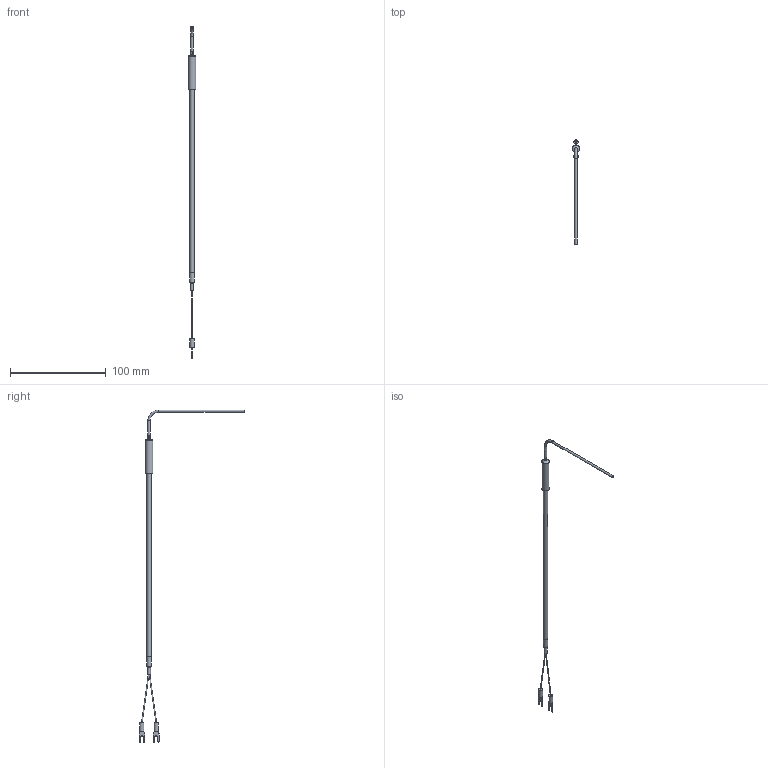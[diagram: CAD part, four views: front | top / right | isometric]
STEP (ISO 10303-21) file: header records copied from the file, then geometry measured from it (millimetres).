
FILE_DESCRIPTION (( 'STEP AP203' ), '1' );
FILE_NAME ('YIT111S-5(0).STEP', '2024-05-29T07:54:04', ( '' ), ( '' ), 'SwSTEP 2.0', 'SolidWorks 2021', '' );
FILE_SCHEMA (( 'CONFIG_CONTROL_DESIGN' ));
Length unit declared in the file: millimetre
Products named in the file (1): YIT111S-5(0)
Bounding box: 8 x 110.43 x 346.15 mm (x, y, z)
Volume: 6425.9 mm3; surface area: 5784.5 mm2
Topology: 1 solids, 1 shells, 70 faces, 168 edges, 109 vertices
Faces by surface type: plane 35, cylinder 22, bspline 8, cone 3, torus 2
Full cylindrical faces by diameter (mm): 2.3 x2, 3.16 x1, 4.5 x2, 4.8 x1, 5 x1, 8 x1
Entity records: 2161 total; most frequent: CARTESIAN_POINT 547, DIRECTION 312, ORIENTED_EDGE 296, EDGE_CURVE 148, AXIS2_PLACEMENT_3D 113, VERTEX_POINT 104, EDGE_LOOP 94, LINE 86
